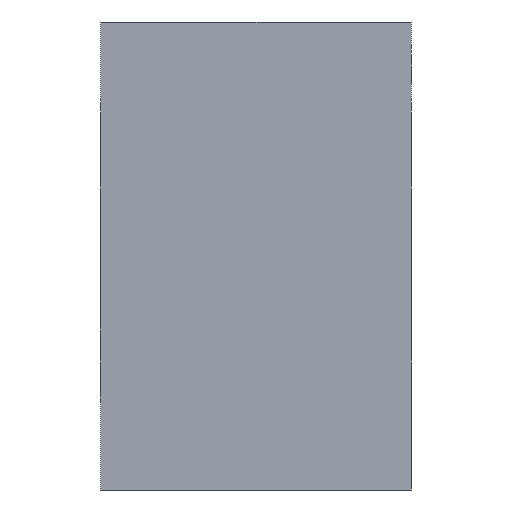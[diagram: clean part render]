
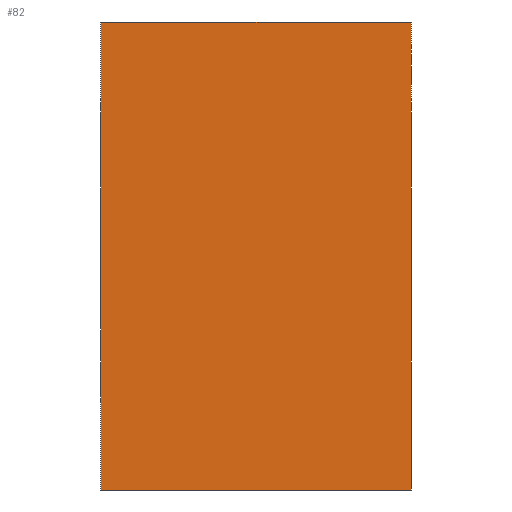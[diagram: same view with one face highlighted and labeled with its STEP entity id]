
A CAD part, left-side view. The second image highlights one B-rep face of the part: STEP entity #82.
In plain terms, the highlighted planar face has unit normal (-1, 0, 0) as drawn and (1, 0, 0) by its records, which use the part's own axes.
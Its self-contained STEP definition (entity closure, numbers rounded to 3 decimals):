
#76=FACE_OUTER_BOUND('',#303,.T.);
#82=ADVANCED_FACE('',(#76),#133,.T.);
#133=PLANE('',#719);
#151=LINE('',#1035,#163);
#155=LINE('',#1053,#167);
#156=LINE('',#1063,#168);
#160=LINE('',#1074,#172);
#163=VECTOR('',#816,1.);
#167=VECTOR('',#832,1.);
#168=VECTOR('',#843,1.);
#172=VECTOR('',#853,1.);
#303=EDGE_LOOP('',(#421,#422,#423,#424));
#421=ORIENTED_EDGE('',*,*,#593,.T.);
#422=ORIENTED_EDGE('',*,*,#604,.T.);
#423=ORIENTED_EDGE('',*,*,#598,.F.);
#424=ORIENTED_EDGE('',*,*,#584,.T.);
#520=VERTEX_POINT('',#1034);
#521=VERTEX_POINT('',#1036);
#528=VERTEX_POINT('',#1052);
#533=VERTEX_POINT('',#1064);
#584=EDGE_CURVE('',#521,#520,#151,.T.);
#593=EDGE_CURVE('',#520,#528,#155,.T.);
#598=EDGE_CURVE('',#521,#533,#156,.T.);
#604=EDGE_CURVE('',#528,#533,#160,.T.);
#719=AXIS2_PLACEMENT_3D('',#1076,#856,#857);
#816=DIRECTION('',(0.,-1.,0.));
#832=DIRECTION('',(0.,0.,-1.));
#843=DIRECTION('',(0.,0.,-1.));
#853=DIRECTION('',(0.,1.,0.));
#856=DIRECTION('',(1.,0.,0.));
#857=DIRECTION('',(0.,0.,-1.));
#1034=CARTESIAN_POINT('',(60.,-49.,0.));
#1035=CARTESIAN_POINT('',(60.,0.,0.));
#1036=CARTESIAN_POINT('',(60.,49.,0.));
#1052=CARTESIAN_POINT('',(60.,-49.,-65.));
#1053=CARTESIAN_POINT('',(60.,-49.,0.));
#1063=CARTESIAN_POINT('',(60.,49.,0.));
#1064=CARTESIAN_POINT('',(60.,49.,-65.));
#1074=CARTESIAN_POINT('',(60.,0.,-65.));
#1076=CARTESIAN_POINT('',(60.,0.,0.));
